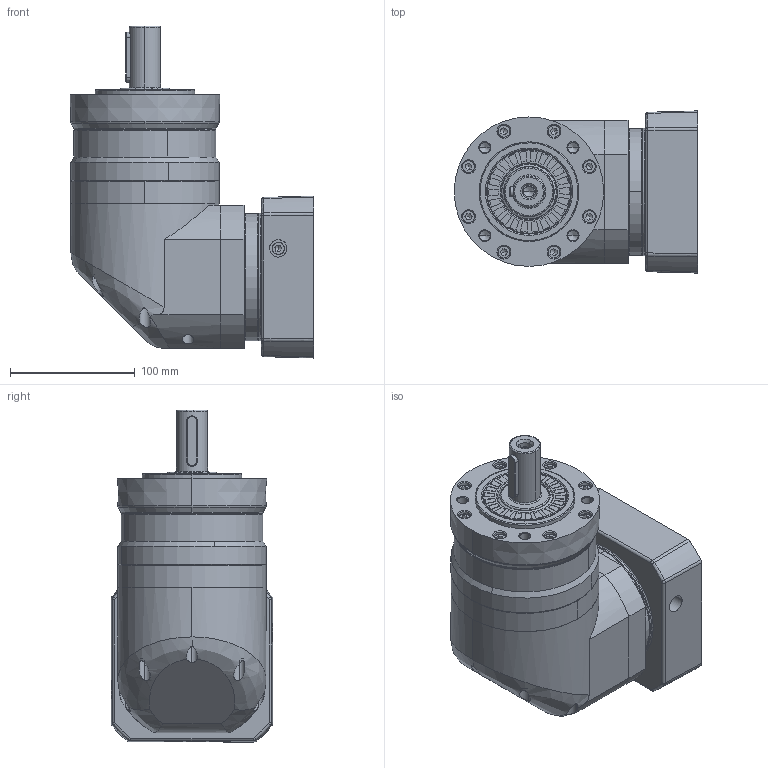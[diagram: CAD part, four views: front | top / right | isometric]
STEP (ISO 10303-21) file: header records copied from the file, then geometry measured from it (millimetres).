
FILE_DESCRIPTION (( 'STEP AP214' ), '1' );
FILE_NAME ('FGR120D-L1-22-110-145-M8-64.STEP', '2021-04-07T01:33:52', ( '微软用户' ), ( '微软中国' ), 'SwSTEP 2.0', 'SolidWorks 2014', '' );
FILE_SCHEMA (( 'AUTOMOTIVE_DESIGN' ));
Length unit declared in the file: millimetre
Products named in the file (53): 镂空输入法兰-110X44.5XM8; M6-14; 怀堤傷褲极FER120; 输入端壳体FER115D; 珨撰眻褒眊极FER110D; 怀堤傷褲极FER110D; 内齿圈FER120; FGR120D-L1-22-110-145-M8-64; M5-12樓粟菜; す瑩8X40; 蚐猾40x68x8; 怀堤俴陎殤FER115D-25X50XM10; 输入锁紧环26X63.5X16; 输入太阳齿轮FER115D-22
Assembly tree (39 placements, depth 2):
  镂空输入法兰-110X44.5XM8
  M6-14
  怀堤傷褲极FER120
  输入端壳体FER115D
  M6-14
Bounding box: 195.5 x 130 x 266.5 mm (x, y, z)
Volume: 2847083.3 mm3; surface area: 377195.7 mm2
Topology: 32 solids, 46 shells, 2197 faces, 5373 edges, 3321 vertices
Faces by surface type: plane 751, bspline 541, cylinder 497, cone 327, torus 50, sphere 31
Entity records: 67786 total; most frequent: CARTESIAN_POINT 33108, ORIENTED_EDGE 7487, DIRECTION 6049, EDGE_CURVE 3747, VERTEX_POINT 2329, AXIS2_PLACEMENT_3D 2268, EDGE_LOOP 1759, ADVANCED_FACE 1569
